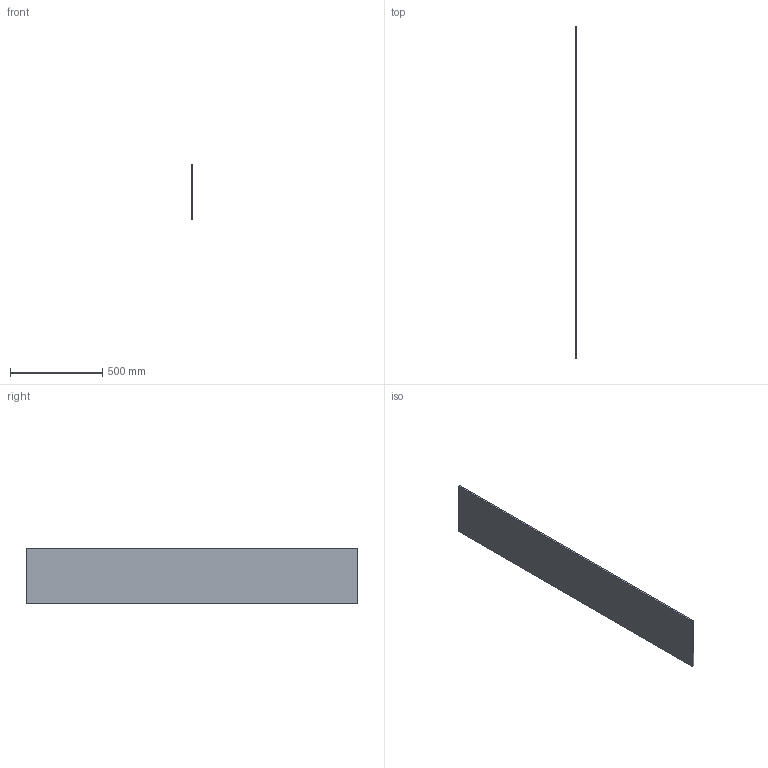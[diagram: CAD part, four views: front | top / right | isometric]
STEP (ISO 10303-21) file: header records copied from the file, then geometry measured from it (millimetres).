
FILE_DESCRIPTION(('Open CASCADE Model'),'2;1');
FILE_NAME('Open CASCADE Shape Model','2026-09-19T12:55:23',('Author'),( 'Open CASCADE'),'Open CASCADE STEP processor 7.9','Open CASCADE 7.9' ,'Unknown');
FILE_SCHEMA(('AUTOMOTIVE_DESIGN { 1 0 10303 214 1 1 1 1 }'));
Length unit declared in the file: millimetre
Products named in the file (1): Open CASCADE STEP translator 7.9 409
Bounding box: 10 x 1800 x 300 mm (x, y, z)
Volume: 5400000 mm3; surface area: 1122000 mm2
Topology: 1 solids, 1 shells, 6 faces, 12 edges, 8 vertices
Faces by surface type: plane 6
Entity records: 322 total; most frequent: CARTESIAN_POINT 51, DIRECTION 50, LINE 36, VECTOR 36, ORIENTED_EDGE 24, PCURVE 24, DEFINITIONAL_REPRESENTATION 24, EDGE_CURVE 12
